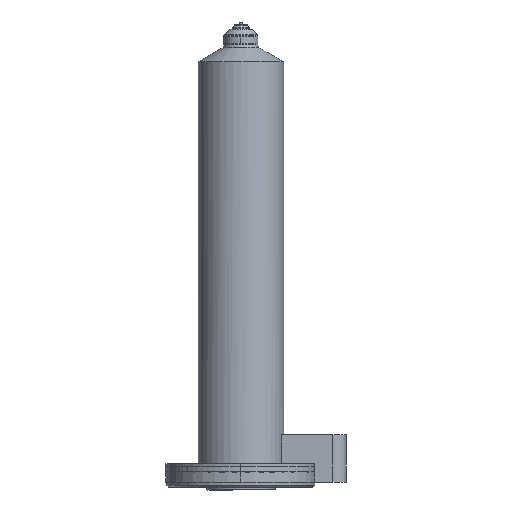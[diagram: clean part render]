
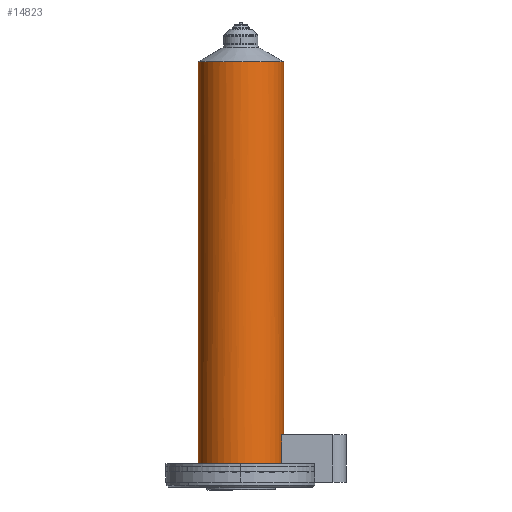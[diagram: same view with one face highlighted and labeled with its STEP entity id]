
A CAD part, front view. The second image highlights one B-rep face of the part: STEP entity #14823.
In plain terms, the highlighted cylindrical face has radius 32.5 mm (diameter 65 mm), a partial arc.
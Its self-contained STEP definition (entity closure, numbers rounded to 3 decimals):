
#345 = AXIS2_PLACEMENT_3D ( 'NONE', #10244, #10242, #10240 ) ;
#627 = VECTOR ( 'NONE', #13481, 1000. ) ;
#628 = VECTOR ( 'NONE', #13486, 1000. ) ;
#755 = LINE ( 'NONE', #13489, #628 ) ;
#798 = CIRCLE ( 'NONE', #5629, 32.5 ) ;
#854 = LINE ( 'NONE', #13482, #627 ) ;
#937 = CIRCLE ( 'NONE', #5618, 32.5 ) ;
#963 = VECTOR ( 'NONE', #17912, 1000. ) ;
#973 = LINE ( 'NONE', #17913, #963 ) ;
#984 = CIRCLE ( 'NONE', #5617, 32.5 ) ;
#5343 = EDGE_CURVE ( 'NONE', #20493, #20392, #755, .T. ) ;
#5345 = EDGE_CURVE ( 'NONE', #20334, #20321, #854, .T. ) ;
#5401 = EDGE_CURVE ( 'NONE', #20334, #20541, #984, .T. ) ;
#5403 = EDGE_CURVE ( 'NONE', #20541, #20491, #973, .T. ) ;
#5406 = EDGE_CURVE ( 'NONE', #20493, #20491, #937, .T. ) ;
#5417 = EDGE_CURVE ( 'NONE', #20392, #20321, #798, .T. ) ;
#5617 = AXIS2_PLACEMENT_3D ( 'NONE', #17919, #17918, #17917 ) ;
#5618 = AXIS2_PLACEMENT_3D ( 'NONE', #17907, #17906, #17905 ) ;
#5629 = AXIS2_PLACEMENT_3D ( 'NONE', #17868, #17867, #17866 ) ;
#6151 = ORIENTED_EDGE ( 'NONE', *, *, #5343, .F. ) ;
#6153 = ORIENTED_EDGE ( 'NONE', *, *, #5406, .T. ) ;
#6155 = ORIENTED_EDGE ( 'NONE', *, *, #5403, .F. ) ;
#6156 = ORIENTED_EDGE ( 'NONE', *, *, #5401, .F. ) ;
#6157 = ORIENTED_EDGE ( 'NONE', *, *, #5345, .T. ) ;
#6159 = ORIENTED_EDGE ( 'NONE', *, *, #5417, .F. ) ;
#7490 = CYLINDRICAL_SURFACE ( 'NONE', #345, 32.5 ) ;
#7503 = FACE_OUTER_BOUND ( 'NONE', #18765, .T. ) ;
#10240 = DIRECTION ( 'NONE',  ( 1., 0., 0. ) ) ;
#10242 = DIRECTION ( 'NONE',  ( 0., 0., 1. ) ) ;
#10244 = CARTESIAN_POINT ( 'NONE',  ( 0., 0., 356. ) ) ;
#13481 = DIRECTION ( 'NONE',  ( 0., 0., 1. ) ) ;
#13482 = CARTESIAN_POINT ( 'NONE',  ( 32.5, 0., 356. ) ) ;
#13486 = DIRECTION ( 'NONE',  ( 0., 0., 1. ) ) ;
#13489 = CARTESIAN_POINT ( 'NONE',  ( -32.5, 0., 356. ) ) ;
#14823 = ADVANCED_FACE ( 'NONE', ( #7503 ), #7490, .T. ) ;
#17866 = DIRECTION ( 'NONE',  ( 1., 0., 0. ) ) ;
#17867 = DIRECTION ( 'NONE',  ( 0., 0., 1. ) ) ;
#17868 = CARTESIAN_POINT ( 'NONE',  ( 0., 0., 325.682 ) ) ;
#17905 = DIRECTION ( 'NONE',  ( 0., 1., 0. ) ) ;
#17906 = DIRECTION ( 'NONE',  ( 0., 0., 1. ) ) ;
#17907 = CARTESIAN_POINT ( 'NONE',  ( 0., 0., 20. ) ) ;
#17912 = DIRECTION ( 'NONE',  ( 0., 0., -1. ) ) ;
#17913 = CARTESIAN_POINT ( 'NONE',  ( 30.923, -10., 6. ) ) ;
#17917 = DIRECTION ( 'NONE',  ( 1., 0., 0. ) ) ;
#17918 = DIRECTION ( 'NONE',  ( 0., 0., -1. ) ) ;
#17919 = CARTESIAN_POINT ( 'NONE',  ( 0., 0., 42. ) ) ;
#18765 = EDGE_LOOP ( 'NONE', ( #6151, #6153, #6155, #6156, #6157, #6159 ) ) ;
#20321 = VERTEX_POINT ( 'NONE', #21909 ) ;
#20334 = VERTEX_POINT ( 'NONE', #21922 ) ;
#20392 = VERTEX_POINT ( 'NONE', #21980 ) ;
#20491 = VERTEX_POINT ( 'NONE', #22079 ) ;
#20493 = VERTEX_POINT ( 'NONE', #22081 ) ;
#20541 = VERTEX_POINT ( 'NONE', #22129 ) ;
#21909 = CARTESIAN_POINT ( 'NONE',  ( 32.5, 0., 325.682 ) ) ;
#21922 = CARTESIAN_POINT ( 'NONE',  ( 32.5, 0., 42. ) ) ;
#21980 = CARTESIAN_POINT ( 'NONE',  ( -32.5, 0., 325.682 ) ) ;
#22079 = CARTESIAN_POINT ( 'NONE',  ( 30.923, -10., 20. ) ) ;
#22081 = CARTESIAN_POINT ( 'NONE',  ( -32.5, 0., 20. ) ) ;
#22129 = CARTESIAN_POINT ( 'NONE',  ( 30.923, -10., 42. ) ) ;
